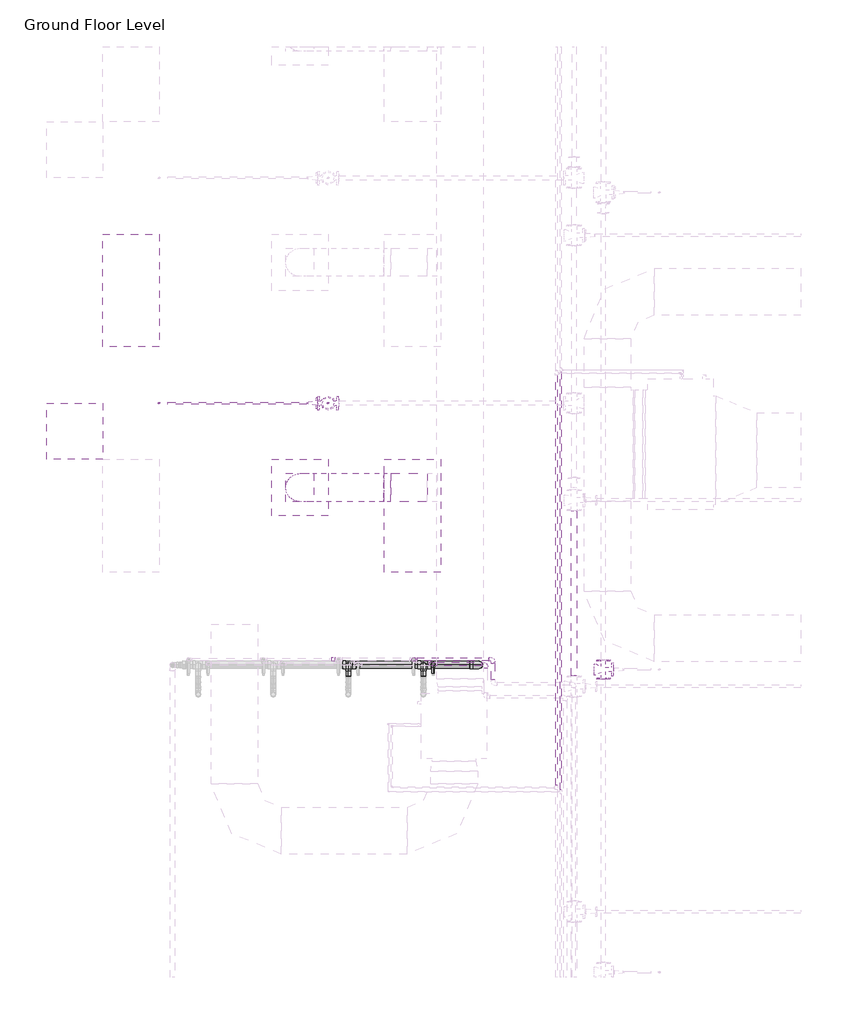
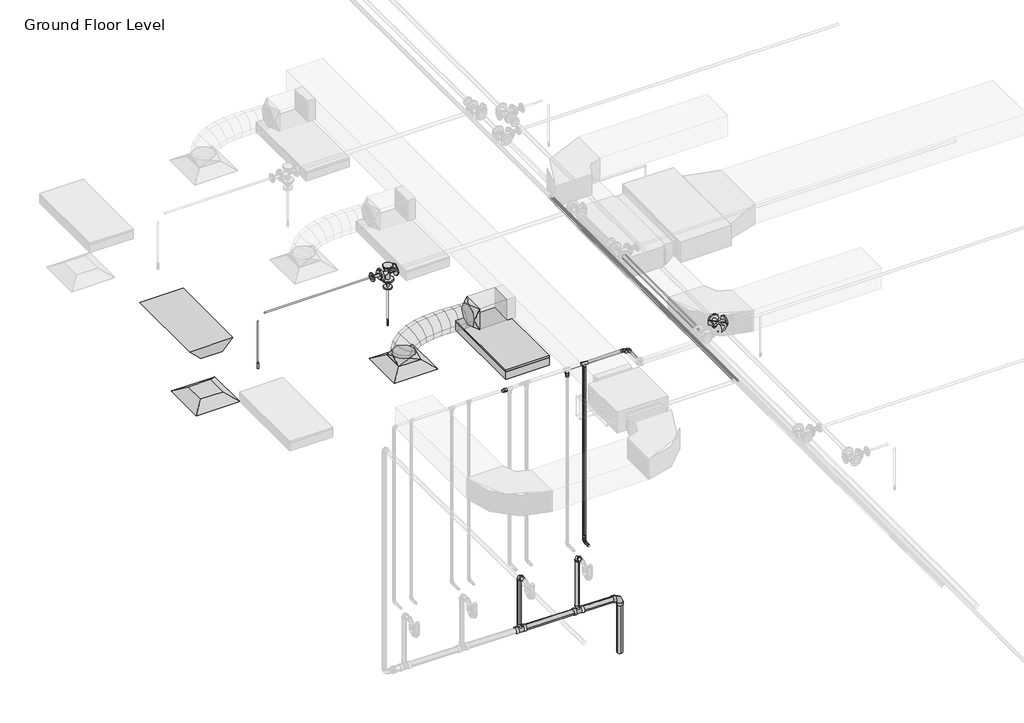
# One storey, part 25 of 75: 18 pipe segments, 16 pipe fittings, 2 air terminals, 2 duct fittings, 2 duct segments, 2 fire suppression terminals, 2 light fixtures.
"""IFC4 building model written with IfcOpenShell, lengths in millimetres."""

from ifc_helpers import new_model, si_unit, point, frame, frame_2d, origin, place, context, project, spatial, polyline, circle_curve, ellipse_curve, trimmed, segment, composite_curve, outline, extrude, transform, mapped, element, save
from ifc_brep_helpers import plane_surface, cylinder_surface, advanced_brep
from components import m_return_diffuser_600_x_600_face_300_x_300_connection_ff221211, m_rectangular_to_round_transition_angle_45_degree_641efff0, m_sprinkler_dry_pendent_hosted_15_mm_dry_pendent_9bda8e11, m_emergency_recessed_lighting_fixture_600x1200_277_5b10b25d, m_troffer_light_parabolic_rectangular1_0600x1200mm_4_lamp_86473d4a, m_bend_pvc_sch_40_dwv_standard_0eeb11e1, m_bend_pvc_sch_40_dwv_standard_1e7bdcc1, m_bend_pvc_sch_40_dwv_standard_b3f66ba9, m_reducer_flanged_cs_class_150_standard_dc68ad9d, m_tee_reducing_sanitary_pvc_sch_40_dwv_standard_21d2848c, m_tee_round_base_flanged_cs_class_150_standard_9c9133d0, m_tee_round_base_flanged_cs_class_150_standard_ab36f383, standard_b266ab3f, standard_517a5a8d, standard_72b35c3b, standard_e954f56a, standard_c7dcb452, standard_e5aa6446

model = new_model("IFC4")

# Units and contexts
model_context = context("Model", 3, world=origin())
ifc_project = project(units=[si_unit("LENGTHUNIT", "METRE", prefix="MILLI")], contexts=[model_context])

# Site, building, storey
site = spatial("IfcSite", under=ifc_project)
building = spatial("IfcBuilding", under=site)
storey = spatial("IfcBuildingStorey", under=building, Name="Ground Floor Level", Elevation=900.0)

# Air terminals
placement = place(None, origin())
m_return_diffuser_600_x_600_face_300_x_300_connection_shape = m_return_diffuser_600_x_600_face_300_x_300_connection_ff221211(model_context)
element("IfcAirTerminal", 1, ObjectType="M_Return Diffuser : 600 x 600 Face 300 x 300 Connection", at=placement, inside=storey, context=model_context, shape_type="MappedRepresentation", body=[
    mapped(m_return_diffuser_600_x_600_face_300_x_300_connection_shape, transform((362.7672395, -21364.7846466, 3650.0), x_axis=(1.0, 0.0, 0.0), y_axis=(0.0, 1.0, 0.0), z_axis=(0.0, 0.0, 1.0))),
])
element("IfcAirTerminal", 2, ObjectType="M_Supply Diffuser : 600 x 600 Face 300 x 300 Connection", at=placement, inside=storey, context=model_context, shape_type="MappedRepresentation", body=[
    mapped(m_return_diffuser_600_x_600_face_300_x_300_connection_shape, transform((2762.7672395, -21964.7846466, 3650.0), x_axis=(1.0, 0.0, 0.0), y_axis=(0.0, 1.0, 0.0), z_axis=(0.0, 0.0, 1.0))),
])

# Duct fittings
m_rectangular_to_round_transition_angle_45_degree_shape = m_rectangular_to_round_transition_angle_45_degree_641efff0(model_context)
element("IfcDuctFitting", 3, ObjectType="M_Rectangular to Round Transition - Angle : 45 Degree", at=placement, inside=storey, context=model_context, shape_type="MappedRepresentation", body=[
    mapped(m_rectangular_to_round_transition_angle_45_degree_shape, transform((2762.7672395, -21964.7846466, 3751.6), x_axis=(0.0, 0.0, 1.0), y_axis=(-1.0, 0.0, 0.0), z_axis=(0.0, -1.0, 0.0))),
])
element("IfcDuctFitting", 4, ObjectType="M_Rectangular to Round Transition - Angle : 45 Degree", at=placement, inside=storey, context=model_context, shape_type="MappedRepresentation", body=[
    mapped(m_rectangular_to_round_transition_angle_45_degree_shape, transform((3732.9512129, -21964.7846466, 4057.1519579), x_axis=(-1.0, 0.0, 0.0), y_axis=(0.0, -1.0, 0.0), z_axis=(0.0, 0.0, 1.0))),
])

# Duct segments
element("IfcDuctSegment", 5, ObjectType="Flex - Round", at=placement, inside=storey, context=model_context, shape_type="AdvancedBrep", body=[
    advanced_brep(
    [(2912.7672395, -21964.7846466, 3826.6), (2762.7672395, -22114.7846466, 3826.6), (2612.7672395, -21964.7846466, 3826.6), (2762.7672395, -21814.7846466, 3826.6), (2912.7672395, -21964.7846466, 3832.8904143), (2762.7672395, -22114.7846466, 3856.8494149), (2612.7672395, -21964.7846466, 3880.8084155), (2762.7672395, -21814.7846466, 3856.8494149), (2914.0859082, -21964.7846466, 3836.9129923), (2779.5128239, -22114.7846466, 3907.9315565), (2644.9397396, -21964.7846466, 3978.9501208), (2779.5128239, -21814.7846466, 3907.9315565), (2928.1338147, -21964.7846466, 3855.2244817), (2826.2856906, -22114.7846466, 3968.9001322), (2724.4375665, -21964.7846466, 4082.5757828), (2826.2856906, -21814.7846466, 3968.9001322), (2960.075367, -21964.7846466, 3874.5779986), (2897.8900097, -22114.7846466, 4012.2854816), (2835.7046525, -21964.7846466, 4149.9929645), (2897.8900097, -21814.7846466, 4012.2854816), (3023.3471395, -21964.7846466, 3894.3985509), (2989.1299517, -22114.7846466, 4040.8673589), (2954.9127638, -21964.7846466, 4187.3361668), (2989.1299517, -21814.7846466, 4040.8673589), (3111.2174774, -21964.7846466, 3908.1662907), (3094.8096865, -22114.7846466, 4057.4255186), (3078.4018957, -21964.7846466, 4206.6847465), (3094.8096865, -21814.7846466, 4057.4255186), (3215.0370803, -21964.7846466, 3914.773779), (3209.7333846, -22114.7846466, 4064.7397152), (3204.4296888, -21964.7846466, 4214.7056514), (3209.7333846, -21814.7846466, 4064.7397152), (3327.4369923, -21964.7846466, 3915.576814), (3328.705216, -22114.7846466, 4065.589703), (3329.9734397, -21964.7846466, 4215.6025919), (3328.705216, -21814.7846466, 4065.589703), (3442.2113611, -21964.7846466, 3912.815715), (3446.529351, -22114.7846466, 4062.7552364), (3450.847341, -21964.7846466, 4212.6947579), (3446.529351, -21814.7846466, 4062.7552364), (3554.0566752, -21964.7846466, 3909.0643159), (3558.0099599, -22114.7846466, 4059.0160699), (3561.9632447, -21964.7846466, 4208.9678239), (3558.0099599, -21814.7846466, 4059.0160699), (3657.9512129, -21964.7846466, 3907.1519579), (3657.9512129, -21814.7846466, 4057.1519579), (3657.9512129, -21964.7846466, 4207.1519579), (3657.9512129, -22114.7846466, 4057.1519579), (3653.7148319, -21964.7846466, 3907.1519579), (3655.1538878, -22114.7846466, 4057.1519579), (3656.5929436, -21964.7846466, 4207.1519579), (3655.1538878, -21814.7846466, 4057.1519579)],
    [
        (0, 1, circle_curve(frame((2762.7672395, -21964.7846466, 3826.6), z_axis=(0.0, 0.0, -1.0), x_axis=(1.0, 0.0, 0.0)), 150.0)),
        (1, 2, circle_curve(frame((2762.7672395, -21964.7846466, 3826.6), z_axis=(0.0, 0.0, -1.0), x_axis=(1.0, 0.0, 0.0)), 150.0)),
        (2, 3, circle_curve(frame((2762.7672395, -21964.7846466, 3826.6), z_axis=(0.0, 0.0, -1.0), x_axis=(1.0, 0.0, 0.0)), 150.0)),
        (3, 0, circle_curve(frame((2762.7672395, -21964.7846466, 3826.6), z_axis=(0.0, 0.0, -1.0), x_axis=(1.0, 0.0, 0.0)), 150.0)),
        (0, 4),
        (4, 5, ellipse_curve(frame((2762.7672395, -21964.7846466, 3856.8494149), z_axis=(-0.1577273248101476, 0.0, -0.9874827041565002), x_axis=(0.9874827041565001, 0.0, -0.1577273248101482)), 151.9013947, 150.0)),
        (5, 1),
        (5, 6, ellipse_curve(frame((2762.7672395, -21964.7846466, 3856.8494149), z_axis=(-0.1577273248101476, 0.0, -0.9874827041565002), x_axis=(0.9874827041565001, 0.0, -0.1577273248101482)), 151.9013947, 150.0)),
        (6, 2),
        (6, 7, ellipse_curve(frame((2762.7672395, -21964.7846466, 3856.8494149), z_axis=(-0.1577273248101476, 0.0, -0.9874827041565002), x_axis=(0.9874827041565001, 0.0, -0.1577273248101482)), 151.9013947, 150.0)),
        (7, 3),
        (7, 4, ellipse_curve(frame((2762.7672395, -21964.7846466, 3856.8494149), z_axis=(-0.1577273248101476, 0.0, -0.9874827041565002), x_axis=(0.9874827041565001, 0.0, -0.1577273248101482)), 151.9013947, 150.0)),
        (4, 8),
        (8, 9, ellipse_curve(frame((2779.5128239, -21964.7846466, 3907.9315565), z_axis=(-0.46672716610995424, 0.0, -0.8844013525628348), x_axis=(0.8844013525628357, 0.0, -0.466727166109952)), 152.162911, 150.0)),
        (9, 5),
        (9, 10, ellipse_curve(frame((2779.5128239, -21964.7846466, 3907.9315565), z_axis=(-0.46672716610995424, 0.0, -0.8844013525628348), x_axis=(0.8844013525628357, 0.0, -0.466727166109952)), 152.162911, 150.0)),
        (10, 6),
        (10, 11, ellipse_curve(frame((2779.5128239, -21964.7846466, 3907.9315565), z_axis=(-0.46672716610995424, 0.0, -0.8844013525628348), x_axis=(0.8844013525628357, 0.0, -0.466727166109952)), 152.162911, 150.0)),
        (11, 7),
        (11, 8, ellipse_curve(frame((2779.5128239, -21964.7846466, 3907.9315565), z_axis=(-0.46672716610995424, 0.0, -0.8844013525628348), x_axis=(0.8844013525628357, 0.0, -0.466727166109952)), 152.162911, 150.0)),
        (8, 12),
        (12, 13, ellipse_curve(frame((2826.2856906, -21964.7846466, 3968.9001322), z_axis=(-0.744790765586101, 0.0, -0.6672980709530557), x_axis=(0.6672980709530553, 0.0, -0.7447907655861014)), 152.6276316, 150.0)),
        (13, 9),
        (13, 14, ellipse_curve(frame((2826.2856906, -21964.7846466, 3968.9001322), z_axis=(-0.744790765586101, 0.0, -0.6672980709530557), x_axis=(0.6672980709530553, 0.0, -0.7447907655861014)), 152.6276316, 150.0)),
        (14, 10),
        (14, 15, ellipse_curve(frame((2826.2856906, -21964.7846466, 3968.9001322), z_axis=(-0.744790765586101, 0.0, -0.6672980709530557), x_axis=(0.6672980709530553, 0.0, -0.7447907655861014)), 152.6276316, 150.0)),
        (15, 11),
        (15, 12, ellipse_curve(frame((2826.2856906, -21964.7846466, 3968.9001322), z_axis=(-0.744790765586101, 0.0, -0.6672980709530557), x_axis=(0.6672980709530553, 0.0, -0.7447907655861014)), 152.6276316, 150.0)),
        (12, 16),
        (16, 17, ellipse_curve(frame((2897.8900097, -21964.7846466, 4012.2854816), z_axis=(-0.9113833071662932, 0.0, -0.41155858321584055), x_axis=(0.41155858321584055, 0.0, -0.9113833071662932)), 151.0972187, 150.0)),
        (17, 13),
        (17, 18, ellipse_curve(frame((2897.8900097, -21964.7846466, 4012.2854816), z_axis=(-0.9113833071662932, 0.0, -0.41155858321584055), x_axis=(0.41155858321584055, 0.0, -0.9113833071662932)), 151.0972187, 150.0)),
        (18, 14),
        (18, 19, ellipse_curve(frame((2897.8900097, -21964.7846466, 4012.2854816), z_axis=(-0.9113833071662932, 0.0, -0.41155858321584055), x_axis=(0.41155858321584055, 0.0, -0.9113833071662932)), 151.0972187, 150.0)),
        (19, 15),
        (19, 16, ellipse_curve(frame((2897.8900097, -21964.7846466, 4012.2854816), z_axis=(-0.9113833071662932, 0.0, -0.41155858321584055), x_axis=(0.41155858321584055, 0.0, -0.9113833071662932)), 151.0972187, 150.0)),
        (16, 20),
        (20, 21, ellipse_curve(frame((2989.1299517, -21964.7846466, 4040.8673589), z_axis=(-0.9737806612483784, 0.0, -0.22748895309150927), x_axis=(0.22748895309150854, 0.0, -0.9737806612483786)), 150.4125249, 150.0)),
        (21, 17),
        (21, 22, ellipse_curve(frame((2989.1299517, -21964.7846466, 4040.8673589), z_axis=(-0.9737806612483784, 0.0, -0.22748895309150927), x_axis=(0.22748895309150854, 0.0, -0.9737806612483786)), 150.4125249, 150.0)),
        (22, 18),
        (22, 23, ellipse_curve(frame((2989.1299517, -21964.7846466, 4040.8673589), z_axis=(-0.9737806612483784, 0.0, -0.22748895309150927), x_axis=(0.22748895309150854, 0.0, -0.9737806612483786)), 150.4125249, 150.0)),
        (23, 19),
        (23, 20, ellipse_curve(frame((2989.1299517, -21964.7846466, 4040.8673589), z_axis=(-0.9737806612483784, 0.0, -0.22748895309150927), x_axis=(0.22748895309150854, 0.0, -0.9737806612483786)), 150.4125249, 150.0)),
        (20, 24),
        (24, 25, ellipse_curve(frame((3094.8096865, -21964.7846466, 4057.4255186), z_axis=(-0.9940121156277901, 0.0, -0.109269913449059), x_axis=(0.10926991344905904, 0.0, -0.9940121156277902)), 150.1583588, 150.0)),
        (25, 21),
        (25, 26, ellipse_curve(frame((3094.8096865, -21964.7846466, 4057.4255186), z_axis=(-0.9940121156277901, 0.0, -0.109269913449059), x_axis=(0.10926991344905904, 0.0, -0.9940121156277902)), 150.1583588, 150.0)),
        (26, 22),
        (26, 27, ellipse_curve(frame((3094.8096865, -21964.7846466, 4057.4255186), z_axis=(-0.9940121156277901, 0.0, -0.109269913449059), x_axis=(0.10926991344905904, 0.0, -0.9940121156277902)), 150.1583588, 150.0)),
        (27, 23),
        (27, 24, ellipse_curve(frame((3094.8096865, -21964.7846466, 4057.4255186), z_axis=(-0.9940121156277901, 0.0, -0.109269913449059), x_axis=(0.10926991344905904, 0.0, -0.9940121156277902)), 150.1583588, 150.0)),
        (24, 28),
        (28, 29, ellipse_curve(frame((3209.7333846, -21964.7846466, 4064.7397152), z_axis=(-0.9993752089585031, 0.0, -0.035343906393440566), x_axis=(0.035343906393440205, 0.0, -0.9993752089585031)), 150.0596922, 150.0)),
        (29, 25),
        (29, 30, ellipse_curve(frame((3209.7333846, -21964.7846466, 4064.7397152), z_axis=(-0.9993752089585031, 0.0, -0.035343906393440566), x_axis=(0.035343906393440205, 0.0, -0.9993752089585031)), 150.0596922, 150.0)),
        (30, 26),
        (30, 31, ellipse_curve(frame((3209.7333846, -21964.7846466, 4064.7397152), z_axis=(-0.9993752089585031, 0.0, -0.035343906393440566), x_axis=(0.035343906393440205, 0.0, -0.9993752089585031)), 150.0596922, 150.0)),
        (31, 27),
        (31, 28, ellipse_curve(frame((3209.7333846, -21964.7846466, 4064.7397152), z_axis=(-0.9993752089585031, 0.0, -0.035343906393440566), x_axis=(0.035343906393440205, 0.0, -0.9993752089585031)), 150.0596922, 150.0)),
        (28, 32),
        (32, 33, ellipse_curve(frame((3328.705216, -21964.7846466, 4065.589703), z_axis=(-0.9999642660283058, 0.0, 0.008453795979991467), x_axis=(-0.00845379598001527, 0.0, -0.9999642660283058)), 150.0182497, 150.0)),
        (33, 29),
        (33, 34, ellipse_curve(frame((3328.705216, -21964.7846466, 4065.589703), z_axis=(-0.9999642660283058, 0.0, 0.008453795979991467), x_axis=(-0.00845379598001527, 0.0, -0.9999642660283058)), 150.0182497, 150.0)),
        (34, 30),
        (34, 35, ellipse_curve(frame((3328.705216, -21964.7846466, 4065.589703), z_axis=(-0.9999642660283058, 0.0, 0.008453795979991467), x_axis=(-0.00845379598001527, 0.0, -0.9999642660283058)), 150.0182497, 150.0)),
        (35, 31),
        (35, 32, ellipse_curve(frame((3328.705216, -21964.7846466, 4065.589703), z_axis=(-0.9999642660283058, 0.0, 0.008453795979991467), x_axis=(-0.00845379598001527, 0.0, -0.9999642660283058)), 150.0182497, 150.0)),
        (32, 36),
        (36, 37, ellipse_curve(frame((3446.529351, -21964.7846466, 4062.7552364), z_axis=(-0.9995855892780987, 0.0, 0.028786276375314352), x_axis=(-0.028786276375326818, 0.0, -0.9995855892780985)), 150.0016838, 150.0)),
        (37, 33),
        (37, 38, ellipse_curve(frame((3446.529351, -21964.7846466, 4062.7552364), z_axis=(-0.9995855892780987, 0.0, 0.028786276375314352), x_axis=(-0.028786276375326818, 0.0, -0.9995855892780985)), 150.0016838, 150.0)),
        (38, 34),
        (38, 39, ellipse_curve(frame((3446.529351, -21964.7846466, 4062.7552364), z_axis=(-0.9995855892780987, 0.0, 0.028786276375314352), x_axis=(-0.028786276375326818, 0.0, -0.9995855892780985)), 150.0016838, 150.0)),
        (39, 35),
        (39, 36, ellipse_curve(frame((3446.529351, -21964.7846466, 4062.7552364), z_axis=(-0.9995855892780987, 0.0, 0.028786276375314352), x_axis=(-0.028786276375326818, 0.0, -0.9995855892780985)), 150.0016838, 150.0)),
        (36, 40),
        (40, 41, ellipse_curve(frame((3558.0099599, -21964.7846466, 4059.0160699), z_axis=(-0.999652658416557, 0.0, 0.026354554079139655), x_axis=(0.026354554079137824, 0.0, 0.9996526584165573)), 150.0038566, 150.0)),
        (41, 37),
        (41, 42, ellipse_curve(frame((3558.0099599, -21964.7846466, 4059.0160699), z_axis=(-0.999652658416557, 0.0, 0.026354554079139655), x_axis=(0.026354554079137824, 0.0, 0.9996526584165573)), 150.0038566, 150.0)),
        (42, 38),
        (42, 43, ellipse_curve(frame((3558.0099599, -21964.7846466, 4059.0160699), z_axis=(-0.999652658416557, 0.0, 0.026354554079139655), x_axis=(0.026354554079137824, 0.0, 0.9996526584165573)), 150.0038566, 150.0)),
        (43, 39),
        (43, 40, ellipse_curve(frame((3558.0099599, -21964.7846466, 4059.0160699), z_axis=(-0.999652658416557, 0.0, 0.026354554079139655), x_axis=(0.026354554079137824, 0.0, 0.9996526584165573)), 150.0038566, 150.0)),
        (44, 45, circle_curve(frame((3657.9512129, -21964.7846466, 4057.1519579), z_axis=(1.0, 0.0, 0.0), x_axis=(0.0, 0.0, -1.0)), 150.0)),
        (45, 46, circle_curve(frame((3657.9512129, -21964.7846466, 4057.1519579), z_axis=(1.0, 0.0, 0.0), x_axis=(0.0, 0.0, -1.0)), 150.0)),
        (46, 47, circle_curve(frame((3657.9512129, -21964.7846466, 4057.1519579), z_axis=(1.0, 0.0, 0.0), x_axis=(0.0, 0.0, -1.0)), 150.0)),
        (47, 44, circle_curve(frame((3657.9512129, -21964.7846466, 4057.1519579), z_axis=(1.0, 0.0, 0.0), x_axis=(0.0, 0.0, -1.0)), 150.0)),
        (40, 48),
        (48, 49, ellipse_curve(frame((3655.1538878, -21964.7846466, 4057.1519579), z_axis=(-0.9999539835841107, 0.0, 0.009593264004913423), x_axis=(0.009593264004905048, 0.0, 0.9999539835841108)), 150.0069028, 150.0)),
        (49, 41),
        (49, 50, ellipse_curve(frame((3655.1538878, -21964.7846466, 4057.1519579), z_axis=(-0.9999539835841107, 0.0, 0.009593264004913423), x_axis=(0.009593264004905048, 0.0, 0.9999539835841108)), 150.0069028, 150.0)),
        (50, 42),
        (50, 51, ellipse_curve(frame((3655.1538878, -21964.7846466, 4057.1519579), z_axis=(-0.9999539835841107, 0.0, 0.009593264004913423), x_axis=(0.009593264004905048, 0.0, 0.9999539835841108)), 150.0069028, 150.0)),
        (51, 43),
        (51, 48, ellipse_curve(frame((3655.1538878, -21964.7846466, 4057.1519579), z_axis=(-0.9999539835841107, 0.0, 0.009593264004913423), x_axis=(0.009593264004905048, 0.0, 0.9999539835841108)), 150.0069028, 150.0)),
        (48, 44),
        (47, 49),
        (46, 50),
        (45, 51),
    ],
    [
        plane_surface(frame((2762.7672395, -22114.7846466, 3826.6), z_axis=(0.0, 0.0, -1.0), x_axis=(1.0, 0.0, 0.0))),
        cylinder_surface(frame((2762.7672395, -21964.7846466, 3826.6), z_axis=(0.0, 0.0, -1.0), x_axis=(1.0, 0.0, 0.0)), 150.0),
        cylinder_surface(frame((2762.7672395, -21964.7846466, 3856.8494149), z_axis=(-0.3115060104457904, 0.0, -0.9502441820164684), x_axis=(0.9502441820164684, 0.0, -0.3115060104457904)), 150.0),
        cylinder_surface(frame((2779.5128239, -21964.7846466, 3907.9315565), z_axis=(-0.6086797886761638, 0.0, -0.7934159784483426), x_axis=(0.7934159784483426, 0.0, -0.6086797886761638)), 150.0),
        cylinder_surface(frame((2826.2856906, -21964.7846466, 3968.9001322), z_axis=(-0.8552571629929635, 0.0, -0.5182038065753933), x_axis=(0.5182038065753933, 0.0, -0.8552571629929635)), 150.0),
        cylinder_surface(frame((2897.8900097, -21964.7846466, 4012.2854816), z_axis=(-0.9542731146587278, 0.0, -0.29893615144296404), x_axis=(0.29893615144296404, 0.0, -0.9542731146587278)), 150.0),
        cylinder_surface(frame((2989.1299517, -21964.7846466, 4040.8673589), z_axis=(-0.9879467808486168, 0.0, -0.15479392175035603), x_axis=(0.15479392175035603, 0.0, -0.9879467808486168)), 150.0),
        cylinder_surface(frame((3094.8096865, -21964.7846466, 4057.4255186), z_axis=(-0.997980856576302, 0.0, -0.06351543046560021), x_axis=(0.06351543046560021, 0.0, -0.997980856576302)), 150.0),
        cylinder_surface(frame((3209.7333846, -21964.7846466, 4064.7397152), z_axis=(-0.9999744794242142, 0.0, -0.007144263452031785), x_axis=(0.007144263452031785, 0.0, -0.9999744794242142)), 150.0),
        cylinder_surface(frame((3328.705216, -21964.7846466, 4065.589703), z_axis=(-0.9997107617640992, 0.0, 0.024049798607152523), x_axis=(-0.024049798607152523, 0.0, -0.9997107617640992)), 150.0),
        cylinder_surface(frame((3446.529351, -21964.7846466, 4062.7552364), z_axis=(-0.9994379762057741, 0.0, 0.03352210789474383), x_axis=(-0.03352210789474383, 0.0, -0.9994379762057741)), 150.0),
        plane_surface(frame((3657.9512129, -21964.7846466, 3907.1519579), z_axis=(1.0, 0.0, 0.0), x_axis=(0.0, 1.0, 0.0))),
        cylinder_surface(frame((3558.0099599, -21964.7846466, 4059.0160699), z_axis=(-0.9998159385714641, 0.0, 0.01918564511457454), x_axis=(-0.01918564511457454, 0.0, -0.9998159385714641)), 150.0),
        cylinder_surface(frame((3655.1538878, -21964.7846466, 4057.1519579), z_axis=(-1.0, 0.0, 0.0), x_axis=(0.0, 0.0, -1.0)), 150.0),
    ],
    [
        (0, [[1, 2, 3, 4]]),
        (1, [[-1, 5, 6, 7]]),
        (1, [[-2, -7, 8, 9]]),
        (1, [[-3, -9, 10, 11]]),
        (1, [[-4, -11, 12, -5]]),
        (2, [[-6, 13, 14, 15]]),
        (2, [[-8, -15, 16, 17]]),
        (2, [[-10, -17, 18, 19]]),
        (2, [[-12, -19, 20, -13]]),
        (3, [[-14, 21, 22, 23]]),
        (3, [[-16, -23, 24, 25]]),
        (3, [[-18, -25, 26, 27]]),
        (3, [[-20, -27, 28, -21]]),
        (4, [[-22, 29, 30, 31]]),
        (4, [[-24, -31, 32, 33]]),
        (4, [[-26, -33, 34, 35]]),
        (4, [[-28, -35, 36, -29]]),
        (5, [[-30, 37, 38, 39]]),
        (5, [[-32, -39, 40, 41]]),
        (5, [[-34, -41, 42, 43]]),
        (5, [[-36, -43, 44, -37]]),
        (6, [[-38, 45, 46, 47]]),
        (6, [[-40, -47, 48, 49]]),
        (6, [[-42, -49, 50, 51]]),
        (6, [[-44, -51, 52, -45]]),
        (7, [[-46, 53, 54, 55]]),
        (7, [[-48, -55, 56, 57]]),
        (7, [[-50, -57, 58, 59]]),
        (7, [[-52, -59, 60, -53]]),
        (8, [[-54, 61, 62, 63]]),
        (8, [[-56, -63, 64, 65]]),
        (8, [[-58, -65, 66, 67]]),
        (8, [[-60, -67, 68, -61]]),
        (9, [[-62, 69, 70, 71]]),
        (9, [[-64, -71, 72, 73]]),
        (9, [[-66, -73, 74, 75]]),
        (9, [[-68, -75, 76, -69]]),
        (10, [[-70, 77, 78, 79]]),
        (10, [[-72, -79, 80, 81]]),
        (10, [[-74, -81, 82, 83]]),
        (10, [[-76, -83, 84, -77]]),
        (11, [[85, 86, 87, 88]]),
        (12, [[-78, 89, 90, 91]]),
        (12, [[-80, -91, 92, 93]]),
        (12, [[-82, -93, 94, 95]]),
        (12, [[-84, -95, 96, -89]]),
        (13, [[-90, 97, -88, 98]]),
        (13, [[-92, -98, -87, 99]]),
        (13, [[-94, -99, -86, 100]]),
        (13, [[-96, -100, -85, -97]]),
    ],
),
])
element("IfcDuctSegment", 6, ObjectType="Radius Elbows / Taps", at=placement, inside=storey, context=model_context, shape_type="SweptSolid", body=[
    extrude(outline(polyline([(4117.5581832, -21814.7846466), (4117.5581832, -22114.7846466), (3732.9512129, -22114.7846466), (3732.9512129, -21814.7846466), (4117.5581832, -21814.7846466)])), frame((0.0, 0.0, 3907.1519579), z_axis=(0.0, 0.0, 1.0), x_axis=(1.0, 0.0, 0.0)), (0.0, 0.0, 1.0), 300.0),
])

# Fire suppression terminals
m_sprinkler_dry_pendent_hosted_15_mm_dry_pendent_shape = m_sprinkler_dry_pendent_hosted_15_mm_dry_pendent_9bda8e11(model_context)
element("IfcFireSuppressionTerminal", 7, ObjectType="M_Sprinkler - Dry - Pendent - Hosted : 15 mm Dry Pendent", at=placement, inside=storey, context=model_context, shape_type="MappedRepresentation", body=[
    mapped(m_sprinkler_dry_pendent_hosted_15_mm_dry_pendent_shape, transform((1262.7672395, -21064.7846466, 3650.0), x_axis=(1.0, 0.0, 0.0), y_axis=(0.0, -1.0, 0.0), z_axis=(0.0, 0.0, -1.0))),
])
element("IfcFireSuppressionTerminal", 8, ObjectType="M_Sprinkler - Dry - Pendent - Hosted : 15 mm Dry Pendent", at=placement, inside=storey, context=model_context, shape_type="MappedRepresentation", body=[
    mapped(m_sprinkler_dry_pendent_hosted_15_mm_dry_pendent_shape, transform((3062.7672395, -21064.7846466, 3650.0), x_axis=(1.0, 0.0, 0.0), y_axis=(0.0, -1.0, 0.0), z_axis=(0.0, 0.0, -1.0))),
])

# Light fixtures
m_emergency_recessed_lighting_fixture_600x1200_277_shape = m_emergency_recessed_lighting_fixture_600x1200_277_5b10b25d(model_context)
element("IfcLightFixture", 9, ObjectType="M_Emergency Recessed Lighting Fixture : 600x1200 - 277", at=placement, inside=storey, context=model_context, shape_type="MappedRepresentation", body=[
    mapped(m_emergency_recessed_lighting_fixture_600x1200_277_shape, transform((662.7672395, -20464.7846466, 3650.0), x_axis=(0.0, 1.0, 0.0), y_axis=(-1.0, 0.0, 0.0), z_axis=(0.0, 0.0, 1.0))),
])
m_troffer_light_parabolic_rectangular1_0600x1200mm_4_lamp_shape = m_troffer_light_parabolic_rectangular1_0600x1200mm_4_lamp_86473d4a(model_context)
element("IfcLightFixture", 10, ObjectType="M_Troffer Light - Parabolic Rectangular1 : 0600x1200mm(4 Lamp) - 277V 2", at=placement, inside=storey, context=model_context, shape_type="MappedRepresentation", body=[
    mapped(m_troffer_light_parabolic_rectangular1_0600x1200mm_4_lamp_shape, transform((3903.3013074, -22246.081145, 3650.0), x_axis=(0.0, 1.0, 0.0), y_axis=(-1.0, 0.0, 0.0), z_axis=(0.0, 0.0, 1.0))),
])

# Pipe fittings
m_bend_pvc_sch_40_dwv_standard_shape = m_bend_pvc_sch_40_dwv_standard_0eeb11e1(model_context)
element("IfcPipeFitting", 11, ObjectType="M_Bend - PVC - Sch 40 - DWV : Standard", at=placement, inside=storey, context=model_context, shape_type="MappedRepresentation", body=[
    mapped(m_bend_pvc_sch_40_dwv_standard_shape, transform((4671.3267974, -23854.2948449, 706.9937306), x_axis=(0.9999500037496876, 0.0, -0.009999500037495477), y_axis=(-0.009999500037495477, 0.0, -0.9999500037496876), z_axis=(0.0, 1.0, 0.0))),
])
m_bend_pvc_sch_40_dwv_standard_2_shape = m_bend_pvc_sch_40_dwv_standard_1e7bdcc1(model_context)
element("IfcPipeFitting", 12, ObjectType="M_Bend - PVC - Sch 40 - DWV : Standard", at=placement, inside=storey, context=model_context, shape_type="MappedRepresentation", body=[
    mapped(m_bend_pvc_sch_40_dwv_standard_2_shape, transform((4078.7498, -23854.2948449, 1508.2594199), x_axis=(0.0, 0.9999500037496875, -0.00999950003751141), y_axis=(0.0, -0.00999950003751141, -0.9999500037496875), z_axis=(-1.0, 0.0, 0.0))),
])
m_bend_pvc_sch_40_dwv_standard_3_shape = m_bend_pvc_sch_40_dwv_standard_b3f66ba9(model_context)
element("IfcPipeFitting", 13, ObjectType="M_Bend - PVC - Sch 40 - DWV : Standard", at=placement, inside=storey, context=model_context, shape_type="MappedRepresentation", body=[
    mapped(m_bend_pvc_sch_40_dwv_standard_3_shape, transform((3278.7498, -23854.294392, 1508.3087469), x_axis=(0.0, 0.9999578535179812, -0.009181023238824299), y_axis=(0.0, -0.009181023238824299, -0.9999578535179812), z_axis=(-1.0, 0.0, 0.0))),
])
m_reducer_flanged_cs_class_150_standard_shape = m_reducer_flanged_cs_class_150_standard_dc68ad9d(model_context)
element("IfcPipeFitting", 14, ObjectType="M_Reducer - Flanged - CS - Class 150 : Standard", at=placement, inside=storey, context=model_context, shape_type="MappedRepresentation", body=[
    mapped(m_reducer_flanged_cs_class_150_standard_shape, transform((2950.5086457, -21064.7846466, 4347.5), x_axis=(-1.0, 0.0, 0.0), y_axis=(0.0, 0.0, 1.0), z_axis=(0.0, 1.0, 0.0))),
])
element("IfcPipeFitting", 15, ObjectType="M_Reducer - Flanged - CS - Class 150 : Standard", at=placement, inside=storey, context=model_context, shape_type="MappedRepresentation", body=[
    mapped(m_reducer_flanged_cs_class_150_standard_shape, transform((3062.7672395, -21064.7846466, 4235.2414062), x_axis=(0.0, 0.0, -1.0), y_axis=(-1.0, 0.0, 0.0), z_axis=(0.0, 1.0, 0.0))),
])
m_tee_reducing_sanitary_pvc_sch_40_dwv_standard_shape = m_tee_reducing_sanitary_pvc_sch_40_dwv_standard_21d2848c(model_context)
element("IfcPipeFitting", 16, ObjectType="M_Tee Reducing Sanitary - PVC - Sch 40 - DWV : Standard", at=placement, inside=storey, context=model_context, shape_type="MappedRepresentation", body=[
    mapped(m_tee_reducing_sanitary_pvc_sch_40_dwv_standard_shape, transform((3278.7498, -23854.294392, 721.0632162), x_axis=(-0.9999500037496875, 0.0, 0.009999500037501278), y_axis=(-0.009999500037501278, 0.0, -0.9999500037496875), z_axis=(0.0, -1.0, 0.0))),
])
element("IfcPipeFitting", 17, ObjectType="M_Tee Reducing Sanitary - PVC - Sch 40 - DWV : Standard", at=placement, inside=storey, context=model_context, shape_type="MappedRepresentation", body=[
    mapped(m_tee_reducing_sanitary_pvc_sch_40_dwv_standard_shape, transform((4078.7498, -23854.2948449, 713.0632162), x_axis=(-0.9999500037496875, 0.0, 0.00999950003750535), y_axis=(-0.00999950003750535, 0.0, -0.9999500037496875), z_axis=(0.0, -1.0, 0.0))),
])
m_tee_round_base_flanged_cs_class_150_standard_shape = m_tee_round_base_flanged_cs_class_150_standard_9c9133d0(model_context)
element("IfcPipeFitting", 18, ObjectType="M_Tee Round Base - Flanged - CS - Class 150 : Standard", at=placement, inside=storey, context=model_context, shape_type="MappedRepresentation", body=[
    mapped(m_tee_round_base_flanged_cs_class_150_standard_shape, transform((5997.057812, -23903.6779349, 4291.0943441), x_axis=(0.0, 1.0, 0.0), y_axis=(-1.0, 0.0, 0.0), z_axis=(0.0, 0.0, 1.0))),
])
m_tee_round_base_flanged_cs_class_150_standard_2_shape = m_tee_round_base_flanged_cs_class_150_standard_ab36f383(model_context)
element("IfcPipeFitting", 19, ObjectType="M_Tee Round Base - Flanged - CS - Class 150 : Standard", at=placement, inside=storey, context=model_context, shape_type="MappedRepresentation", body=[
    mapped(m_tee_round_base_flanged_cs_class_150_standard_2_shape, transform((3062.7672395, -21064.7846466, 4347.5), x_axis=(-1.0, 0.0, 0.0), y_axis=(0.0, 0.0, 1.0), z_axis=(0.0, 1.0, 0.0))),
])
standard_shape = standard_b266ab3f(model_context)
element("IfcPipeFitting", 20, ObjectType="M_Elbow - CPVC - Sch 40 : Standard", at=placement, inside=storey, context=model_context, shape_type="MappedRepresentation", body=[
    mapped(standard_shape, transform((4183.0647206, -23844.7846466, 1690.0), x_axis=(0.0, 1.0, 0.0), y_axis=(0.0, 0.0, 1.0), z_axis=(1.0, 0.0, 0.0))),
])
standard_2_shape = standard_517a5a8d(model_context)
element("IfcPipeFitting", 21, ObjectType="M_Elbow - CPVC - Sch 40 : Standard", at=placement, inside=storey, context=model_context, shape_type="MappedRepresentation", body=[
    mapped(standard_2_shape, transform((4743.0647206, -23844.7846466, 4300.0), x_axis=(0.0, 1.0, 0.0), y_axis=(-1.0, 0.0, 0.0), z_axis=(0.0, 0.0, 1.0))),
])
element("IfcPipeFitting", 22, ObjectType="M_Elbow - CPVC - Sch 40 : Standard", at=placement, inside=storey, context=model_context, shape_type="MappedRepresentation", body=[
    mapped(standard_2_shape, transform((4820.5575802, -23794.921633, 4250.0), x_axis=(0.0, 1.0, 0.0), y_axis=(-1.0, 0.0, 0.0), z_axis=(0.0, 0.0, 1.0))),
])
standard_3_shape = standard_72b35c3b(model_context)
element("IfcPipeFitting", 23, ObjectType="M_Tee - CPVC - Sch 40 : Standard", at=placement, inside=storey, context=model_context, shape_type="MappedRepresentation", body=[
    mapped(standard_3_shape, transform((4183.0647206, -23844.7846466, 4300.0), x_axis=(-1.0, 0.0, 0.0), y_axis=(0.0, 0.0, 1.0), z_axis=(0.0, 1.0, 0.0))),
])
standard_4_shape = standard_e954f56a(model_context)
element("IfcPipeFitting", 24, ObjectType="M_Coupling Reducing - CPVC - Sch 40 : Standard", at=placement, inside=storey, context=model_context, shape_type="MappedRepresentation", body=[
    mapped(standard_4_shape, transform((3974.4348794, -23794.921633, 4210.2998), x_axis=(0.0, 0.0, -1.0), y_axis=(-1.0, 0.0, 0.0), z_axis=(0.0, 1.0, 0.0))),
])
standard_5_shape = standard_c7dcb452(model_context)
element("IfcPipeFitting", 25, ObjectType="M_Coupling Reducing - CPVC - Sch 40 : Standard", at=placement, inside=storey, context=model_context, shape_type="MappedRepresentation", body=[
    mapped(standard_5_shape, transform((4183.0647206, -23844.7846466, 1725.32505), x_axis=(0.0, 0.0, 1.0), y_axis=(0.0, 1.0, 0.0), z_axis=(-1.0, 0.0, 0.0))),
])
standard_6_shape = standard_e5aa6446(model_context)
element("IfcPipeFitting", 26, ObjectType="M_Coupling Reducing - CPVC - Sch 40 : Standard", at=placement, inside=storey, context=model_context, shape_type="MappedRepresentation", body=[
    mapped(standard_6_shape, transform((3134.7346794, -23794.921633, 4250.0), x_axis=(-1.0, 0.0, 0.0), y_axis=(0.0, -1.0, 0.0), z_axis=(0.0, 0.0, 1.0))),
])

# Pipe segments
element("IfcPipeSegment", 27, ObjectType="CPVC", at=placement, inside=storey, context=model_context, shape_type="SweptSolid", body=[
    extrude(outline(composite_curve([segment(trimmed(circle_curve(frame_2d((1690.0, 4183.0647206)), 13.335), [point((1690.0, 4196.3997206))], [point((1703.335, 4183.0647206))], False, "CARTESIAN"), True, "CONTINUOUS"), segment(trimmed(circle_curve(frame_2d((1690.0, 4183.0647206)), 13.335), [point((1703.335, 4183.0647206))], [point((1690.0, 4169.7297206))], False, "CARTESIAN"), True, "CONTINUOUS"), segment(trimmed(circle_curve(frame_2d((1690.0, 4183.0647206)), 13.335), [point((1690.0, 4169.7297206))], [point((1676.665, 4183.0647206))], False, "CARTESIAN"), True, "CONTINUOUS"), segment(trimmed(circle_curve(frame_2d((1690.0, 4183.0647206)), 13.335), [point((1676.665, 4183.0647206))], [point((1690.0, 4196.3997206))], False, "CARTESIAN"), True, "CONTINUOUS")], self_intersect=False)), frame((0.0, -23944.7846466, 0.0), z_axis=(0.0, 1.0, 0.0), x_axis=(0.0, 0.0, 1.0)), (0.0, 0.0, 1.0), 64.67495),
])
element("IfcPipeSegment", 28, ObjectType="CPVC", at=placement, inside=storey, context=model_context, shape_type="SweptSolid", body=[
    extrude(outline(composite_curve([segment(trimmed(circle_curve(frame_2d((-23844.7846466, 4300.0)), 16.7005), [point((-23861.4851466, 4300.0))], [point((-23844.7846466, 4316.7005))], False, "CARTESIAN"), True, "CONTINUOUS"), segment(trimmed(circle_curve(frame_2d((-23844.7846466, 4300.0)), 16.7005), [point((-23844.7846466, 4316.7005))], [point((-23828.0841466, 4300.0))], False, "CARTESIAN"), True, "CONTINUOUS"), segment(trimmed(circle_curve(frame_2d((-23844.7846466, 4300.0)), 16.7005), [point((-23828.0841466, 4300.0))], [point((-23844.7846466, 4283.2995))], False, "CARTESIAN"), True, "CONTINUOUS"), segment(trimmed(circle_curve(frame_2d((-23844.7846466, 4300.0)), 16.7005), [point((-23844.7846466, 4283.2995))], [point((-23861.4851466, 4300.0))], False, "CARTESIAN"), True, "CONTINUOUS")], self_intersect=False)), frame((4222.7649206, 0.0, 0.0), z_axis=(1.0, 0.0, 0.0), x_axis=(0.0, 1.0, 0.0)), (0.0, 0.0, 1.0), 477.03725),
])
element("IfcPipeSegment", 29, ObjectType="CPVC", at=placement, inside=storey, context=model_context, shape_type="SweptSolid", body=[
    extrude(outline(composite_curve([segment(trimmed(circle_curve(frame_2d((4183.0647206, -23844.7846466)), 16.7005), [point((4166.3642206, -23844.7846466))], [point((4183.0647206, -23828.0841466))], False, "CARTESIAN"), True, "CONTINUOUS"), segment(trimmed(circle_curve(frame_2d((4183.0647206, -23844.7846466)), 16.7005), [point((4183.0647206, -23828.0841466))], [point((4199.7652206, -23844.7846466))], False, "CARTESIAN"), True, "CONTINUOUS"), segment(trimmed(circle_curve(frame_2d((4183.0647206, -23844.7846466)), 16.7005), [point((4199.7652206, -23844.7846466))], [point((4183.0647206, -23861.4851466))], False, "CARTESIAN"), True, "CONTINUOUS"), segment(trimmed(circle_curve(frame_2d((4183.0647206, -23844.7846466)), 16.7005), [point((4183.0647206, -23861.4851466))], [point((4166.3642206, -23844.7846466))], False, "CARTESIAN"), True, "CONTINUOUS")], self_intersect=False)), frame((0.0, 0.0, 1782.47505), z_axis=(0.0, 0.0, 1.0), x_axis=(1.0, 0.0, 0.0)), (0.0, 0.0, 1.0), 2477.82475),
])
element("IfcPipeSegment", 30, ObjectType="CPVC", at=placement, inside=storey, context=model_context, shape_type="SweptSolid", body=[
    extrude(outline(composite_curve([segment(trimmed(circle_curve(frame_2d((4250.0, 4820.5575802)), 16.7005), [point((4250.0, 4837.2580802))], [point((4266.7005, 4820.5575802))], False, "CARTESIAN"), True, "CONTINUOUS"), segment(trimmed(circle_curve(frame_2d((4250.0, 4820.5575802)), 16.7005), [point((4266.7005, 4820.5575802))], [point((4250.0, 4803.8570802))], False, "CARTESIAN"), True, "CONTINUOUS"), segment(trimmed(circle_curve(frame_2d((4250.0, 4820.5575802)), 16.7005), [point((4250.0, 4803.8570802))], [point((4233.2995, 4820.5575802))], False, "CARTESIAN"), True, "CONTINUOUS"), segment(trimmed(circle_curve(frame_2d((4250.0, 4820.5575802)), 16.7005), [point((4233.2995, 4820.5575802))], [point((4250.0, 4837.2580802))], False, "CARTESIAN"), True, "CONTINUOUS")], self_intersect=False)), frame((0.0, -24011.659083, 0.0), z_axis=(0.0, 1.0, 0.0), x_axis=(0.0, 0.0, 1.0)), (0.0, 0.0, 1.0), 173.4749),
])
element("IfcPipeSegment", 31, ObjectType="CPVC", at=placement, inside=storey, context=model_context, shape_type="SweptSolid", body=[
    extrude(outline(composite_curve([segment(trimmed(circle_curve(frame_2d((-23794.921633, 4250.0)), 16.7005), [point((-23811.622133, 4250.0))], [point((-23794.921633, 4266.7005))], False, "CARTESIAN"), True, "CONTINUOUS"), segment(trimmed(circle_curve(frame_2d((-23794.921633, 4250.0)), 16.7005), [point((-23794.921633, 4266.7005))], [point((-23778.221133, 4250.0))], False, "CARTESIAN"), True, "CONTINUOUS"), segment(trimmed(circle_curve(frame_2d((-23794.921633, 4250.0)), 16.7005), [point((-23778.221133, 4250.0))], [point((-23794.921633, 4233.2995))], False, "CARTESIAN"), True, "CONTINUOUS"), segment(trimmed(circle_curve(frame_2d((-23794.921633, 4250.0)), 16.7005), [point((-23794.921633, 4233.2995))], [point((-23811.622133, 4250.0))], False, "CARTESIAN"), True, "CONTINUOUS")], self_intersect=False)), frame((4014.1350794, 0.0, 0.0), z_axis=(1.0, 0.0, 0.0), x_axis=(0.0, 1.0, 0.0)), (0.0, 0.0, 1.0), 763.1599508),
])
element("IfcPipeSegment", 32, ObjectType="Copper", at=placement, inside=storey, context=model_context, shape_type="SweptSolid", body=[
    extrude(outline(composite_curve([segment(trimmed(circle_curve(frame_2d((4377.5, 5543.9904113)), 6.5), [point((4377.5, 5550.4904113))], [point((4384.0, 5543.9904113))], False, "CARTESIAN"), True, "CONTINUOUS"), segment(trimmed(circle_curve(frame_2d((4377.5, 5543.9904113)), 6.5), [point((4384.0, 5543.9904113))], [point((4377.5, 5537.4904113))], False, "CARTESIAN"), True, "CONTINUOUS"), segment(trimmed(circle_curve(frame_2d((4377.5, 5543.9904113)), 6.5), [point((4377.5, 5537.4904113))], [point((4371.0, 5543.9904113))], False, "CARTESIAN"), True, "CONTINUOUS"), segment(trimmed(circle_curve(frame_2d((4377.5, 5543.9904113)), 6.5), [point((4371.0, 5543.9904113))], [point((4377.5, 5550.4904113))], False, "CARTESIAN"), True, "CONTINUOUS")], self_intersect=False)), frame((0.0, -25185.8524508, 0.0), z_axis=(0.0, 1.0, 0.0), x_axis=(0.0, 0.0, 1.0)), (0.0, 0.0, 1.0), 4453.3686516),
])
element("IfcPipeSegment", 33, ObjectType="Copper", at=placement, inside=storey, context=model_context, shape_type="SweptSolid", body=[
    extrude(outline(composite_curve([segment(trimmed(circle_curve(frame_2d((4390.0, 5497.8951827)), 9.75), [point((4390.0, 5507.6451827))], [point((4399.75, 5497.8951827))], False, "CARTESIAN"), True, "CONTINUOUS"), segment(trimmed(circle_curve(frame_2d((4390.0, 5497.8951827)), 9.75), [point((4399.75, 5497.8951827))], [point((4390.0, 5488.1451827))], False, "CARTESIAN"), True, "CONTINUOUS"), segment(trimmed(circle_curve(frame_2d((4390.0, 5497.8951827)), 9.75), [point((4390.0, 5488.1451827))], [point((4380.25, 5497.8951827))], False, "CARTESIAN"), True, "CONTINUOUS"), segment(trimmed(circle_curve(frame_2d((4390.0, 5497.8951827)), 9.75), [point((4380.25, 5497.8951827))], [point((4390.0, 5507.6451827))], False, "CARTESIAN"), True, "CONTINUOUS")], self_intersect=False)), frame((0.0, -25138.2771488, 0.0), z_axis=(0.0, 1.0, 0.0), x_axis=(0.0, 0.0, 1.0)), (0.0, 0.0, 1.0), 4369.0669095),
])
element("IfcPipeSegment", 34, ObjectType="PVC - DWV", at=placement, inside=storey, context=model_context, shape_type="SweptSolid", body=[
    extrude(outline(composite_curve([segment(trimmed(circle_curve(frame_2d((0.0, -36.5125)), 36.5125), [point((0.0, -73.025))], [point((-36.5125001, -36.5125))], False, "CARTESIAN"), True, "CONTINUOUS"), segment(trimmed(circle_curve(frame_2d((0.0, -36.5125)), 36.5125), [point((-36.5125001, -36.5125))], [point((0.0, 0.0))], False, "CARTESIAN"), True, "CONTINUOUS"), segment(trimmed(circle_curve(frame_2d((0.0, -36.5125)), 36.5125), [point((0.0, 0.0))], [point((36.5125, -36.5125))], False, "CARTESIAN"), True, "CONTINUOUS"), segment(trimmed(circle_curve(frame_2d((0.0, -36.5125)), 36.5125), [point((36.5125, -36.5125))], [point((0.0, -73.025))], False, "CARTESIAN"), True, "CONTINUOUS")], self_intersect=False)), frame((4572.3191851, -23817.7823449, 708.1338068), z_axis=(-0.9999501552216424, 0.0, 0.009984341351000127), x_axis=(0.009984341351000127, 0.0, 0.9999501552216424)), (0.0, 0.0, 1.0), 414.5308814),
])
element("IfcPipeSegment", 35, ObjectType="PVC - DWV", at=placement, inside=storey, context=model_context, shape_type="SweptSolid", body=[
    extrude(outline(composite_curve([segment(trimmed(circle_curve(frame_2d((0.0, -24.13)), 24.13), [point((24.13, -24.13))], [point((0.0, -48.26))], False, "CARTESIAN"), True, "CONTINUOUS"), segment(trimmed(circle_curve(frame_2d((0.0, -24.13)), 24.13), [point((0.0, -48.26))], [point((-24.13, -24.13))], False, "CARTESIAN"), True, "CONTINUOUS"), segment(trimmed(circle_curve(frame_2d((0.0, -24.13)), 24.13), [point((-24.13, -24.13))], [point((0.0, 0.0))], False, "CARTESIAN"), True, "CONTINUOUS"), segment(trimmed(circle_curve(frame_2d((0.0, -24.13)), 24.13), [point((0.0, 0.0))], [point((24.13, -24.13))], False, "CARTESIAN"), True, "CONTINUOUS")], self_intersect=False)), frame((3278.7498, -23915.9700451, 1533.0060334), z_axis=(0.0, -0.9999578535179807, 0.009181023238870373), x_axis=(1.0, 0.0, 0.0)), (0.0, 0.0, 1.0), 60.2666161),
])
element("IfcPipeSegment", 36, ObjectType="PVC - DWV", at=placement, inside=storey, context=model_context, shape_type="SweptSolid", body=[
    extrude(outline(composite_curve([segment(trimmed(circle_curve(frame_2d((3278.7498, -23854.294392)), 24.13), [point((3254.6198, -23854.294392))], [point((3278.7498, -23830.164392))], False, "CARTESIAN"), True, "CONTINUOUS"), segment(trimmed(circle_curve(frame_2d((3278.7498, -23854.294392)), 24.13), [point((3278.7498, -23830.164392))], [point((3302.8798, -23854.294392))], False, "CARTESIAN"), True, "CONTINUOUS"), segment(trimmed(circle_curve(frame_2d((3278.7498, -23854.294392)), 24.13), [point((3302.8798, -23854.294392))], [point((3278.7498, -23878.424392))], False, "CARTESIAN"), True, "CONTINUOUS"), segment(trimmed(circle_curve(frame_2d((3278.7498, -23854.294392)), 24.13), [point((3278.7498, -23878.424392))], [point((3254.6198, -23854.294392))], False, "CARTESIAN"), True, "CONTINUOUS")], self_intersect=False)), frame((0.0, 0.0, 801.9106725), z_axis=(0.0, 0.0, 1.0), x_axis=(1.0, 0.0, 0.0)), (0.0, 0.0, 1.0), 644.4982744),
])
element("IfcPipeSegment", 37, ObjectType="PVC - DWV", at=placement, inside=storey, context=model_context, shape_type="SweptSolid", body=[
    extrude(outline(composite_curve([segment(trimmed(circle_curve(frame_2d((0.0, -24.13)), 24.13), [point((24.13, -24.13))], [point((0.0, -48.26))], False, "CARTESIAN"), True, "CONTINUOUS"), segment(trimmed(circle_curve(frame_2d((0.0, -24.13)), 24.13), [point((0.0, -48.26))], [point((-24.13, -24.13))], False, "CARTESIAN"), True, "CONTINUOUS"), segment(trimmed(circle_curve(frame_2d((0.0, -24.13)), 24.13), [point((-24.13, -24.13))], [point((0.0, 0.0))], False, "CARTESIAN"), True, "CONTINUOUS"), segment(trimmed(circle_curve(frame_2d((0.0, -24.13)), 24.13), [point((0.0, 0.0))], [point((24.13, -24.13))], False, "CARTESIAN"), True, "CONTINUOUS")], self_intersect=False)), frame((4078.7498, -23915.9502622, 1533.0071805), z_axis=(0.0, -0.9999500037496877, 0.009999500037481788), x_axis=(1.0, 0.0, 0.0)), (0.0, 0.0, 1.0), 60.2666156),
])
element("IfcPipeSegment", 38, ObjectType="PVC - DWV", at=placement, inside=storey, context=model_context, shape_type="SweptSolid", body=[
    extrude(outline(composite_curve([segment(trimmed(circle_curve(frame_2d((4078.7498, -23854.2948449)), 24.13), [point((4054.6198, -23854.2948449))], [point((4078.7498, -23830.1648449))], False, "CARTESIAN"), True, "CONTINUOUS"), segment(trimmed(circle_curve(frame_2d((4078.7498, -23854.2948449)), 24.13), [point((4078.7498, -23830.1648449))], [point((4102.8798, -23854.2948449))], False, "CARTESIAN"), True, "CONTINUOUS"), segment(trimmed(circle_curve(frame_2d((4078.7498, -23854.2948449)), 24.13), [point((4102.8798, -23854.2948449))], [point((4078.7498, -23878.4248449))], False, "CARTESIAN"), True, "CONTINUOUS"), segment(trimmed(circle_curve(frame_2d((4078.7498, -23854.2948449)), 24.13), [point((4078.7498, -23878.4248449))], [point((4054.6198, -23854.2948449))], False, "CARTESIAN"), True, "CONTINUOUS")], self_intersect=False)), frame((0.0, 0.0, 793.9106725), z_axis=(0.0, 0.0, 1.0), x_axis=(1.0, 0.0, 0.0)), (0.0, 0.0, 1.0), 652.4489474),
])
element("IfcPipeSegment", 39, ObjectType="PVC - DWV", at=placement, inside=storey, context=model_context, shape_type="SweptSolid", body=[
    extrude(outline(composite_curve([segment(trimmed(circle_curve(frame_2d((-1e-07, -36.5125)), 36.5125), [point((-0.0025002, -73.0249999))], [point((-36.5125, -36.5099999))], False, "CARTESIAN"), True, "CONTINUOUS"), segment(trimmed(circle_curve(frame_2d((-1e-07, -36.5125)), 36.5125), [point((-36.5125, -36.5099999))], [point((0.0025, -1e-07))], False, "CARTESIAN"), True, "CONTINUOUS"), segment(trimmed(circle_curve(frame_2d((-1e-07, -36.5125)), 36.5125), [point((0.0025, -1e-07))], [point((36.5124998, -36.5150001))], False, "CARTESIAN"), True, "CONTINUOUS"), segment(trimmed(circle_curve(frame_2d((-1e-07, -36.5125)), 36.5125), [point((36.5124998, -36.5150001))], [point((-0.0025002, -73.0249999))], False, "CARTESIAN"), True, "CONTINUOUS")], self_intersect=False)), frame((4019.2670308, -23817.782345, 713.655544), z_axis=(-0.9999500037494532, 6.846526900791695e-07, 0.009999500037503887), x_axis=(0.009999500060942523, 6.846526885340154e-05, 0.9999500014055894)), (0.0, 0.0, 1.0), 661.4911369),
])
element("IfcPipeSegment", 40, ObjectType="PVC - DWV", at=placement, inside=storey, context=model_context, shape_type="SweptSolid", body=[
    extrude(outline(composite_curve([segment(trimmed(circle_curve(frame_2d((0.0, -36.5125)), 36.5125), [point((-36.5125, -36.5125))], [point((0.0, 0.0))], False, "CARTESIAN"), True, "CONTINUOUS"), segment(trimmed(circle_curve(frame_2d((0.0, -36.5125)), 36.5125), [point((0.0, 0.0))], [point((36.5125, -36.5125))], False, "CARTESIAN"), True, "CONTINUOUS"), segment(trimmed(circle_curve(frame_2d((0.0, -36.5125)), 36.5125), [point((36.5125, -36.5125))], [point((0.0, -73.025))], False, "CARTESIAN"), True, "CONTINUOUS"), segment(trimmed(circle_curve(frame_2d((0.0, -36.5125)), 36.5125), [point((0.0, -73.025))], [point((-36.5125, -36.5125))], False, "CARTESIAN"), True, "CONTINUOUS")], self_intersect=False)), frame((4671.2998001, -23890.8073449, -100.0), z_axis=(3.81328750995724e-05, 0.0, 0.999999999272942), x_axis=(-0.999999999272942, 0.0, 3.81328750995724e-05)), (0.0, 0.0, 1.0), 707.9796686),
])
element("IfcPipeSegment", 41, ObjectType="Steel flanged", at=placement, inside=storey, context=model_context, shape_type="SweptSolid", body=[
    extrude(outline(composite_curve([segment(trimmed(circle_curve(frame_2d((4347.5, 5684.6174894)), 30.1625), [point((4347.5, 5714.7799894))], [point((4377.6625, 5684.6174894))], False, "CARTESIAN"), True, "CONTINUOUS"), segment(trimmed(circle_curve(frame_2d((4347.5, 5684.6174894)), 30.1625), [point((4377.6625, 5684.6174894))], [point((4347.5, 5654.4549894))], False, "CARTESIAN"), True, "CONTINUOUS"), segment(trimmed(circle_curve(frame_2d((4347.5, 5684.6174894)), 30.1625), [point((4347.5, 5654.4549894))], [point((4317.3375, 5684.6174894))], False, "CARTESIAN"), True, "CONTINUOUS"), segment(trimmed(circle_curve(frame_2d((4347.5, 5684.6174894)), 30.1625), [point((4317.3375, 5684.6174894))], [point((4347.5, 5714.7799894))], False, "CARTESIAN"), True, "CONTINUOUS")], self_intersect=False)), frame((0.0, -23969.6779349, 0.0), z_axis=(0.0, 1.0, 0.0), x_axis=(0.0, 0.0, 1.0)), (0.0, 0.0, 1.0), 1757.6492003),
])
element("IfcPipeSegment", 42, ObjectType="Steel flanged", at=placement, inside=storey, context=model_context, shape_type="SweptSolid", body=[
    extrude(outline(composite_curve([segment(trimmed(circle_curve(frame_2d((1262.7672395, -21064.7846466)), 10.668), [point((1252.0992395, -21064.7846466))], [point((1262.7672395, -21054.1166466))], False, "CARTESIAN"), True, "CONTINUOUS"), segment(trimmed(circle_curve(frame_2d((1262.7672395, -21064.7846466)), 10.668), [point((1262.7672395, -21054.1166466))], [point((1273.4352395, -21064.7846466))], False, "CARTESIAN"), True, "CONTINUOUS"), segment(trimmed(circle_curve(frame_2d((1262.7672395, -21064.7846466)), 10.668), [point((1273.4352395, -21064.7846466))], [point((1262.7672395, -21075.4526466))], False, "CARTESIAN"), True, "CONTINUOUS"), segment(trimmed(circle_curve(frame_2d((1262.7672395, -21064.7846466)), 10.668), [point((1262.7672395, -21075.4526466))], [point((1252.0992395, -21064.7846466))], False, "CARTESIAN"), True, "CONTINUOUS")], self_intersect=False)), frame((0.0, 0.0, 3650.0), z_axis=(0.0, 0.0, 1.0), x_axis=(1.0, 0.0, 0.0)), (0.0, 0.0, 1.0), 604.4914062),
])
element("IfcPipeSegment", 43, ObjectType="Steel flanged", at=placement, inside=storey, context=model_context, shape_type="SweptSolid", body=[
    extrude(outline(composite_curve([segment(trimmed(circle_curve(frame_2d((3062.7672395, -21064.7846466)), 10.668), [point((3052.0992395, -21064.7846466))], [point((3062.7672395, -21054.1166466))], False, "CARTESIAN"), True, "CONTINUOUS"), segment(trimmed(circle_curve(frame_2d((3062.7672395, -21064.7846466)), 10.668), [point((3062.7672395, -21054.1166466))], [point((3073.4352395, -21064.7846466))], False, "CARTESIAN"), True, "CONTINUOUS"), segment(trimmed(circle_curve(frame_2d((3062.7672395, -21064.7846466)), 10.668), [point((3073.4352395, -21064.7846466))], [point((3062.7672395, -21075.4526466))], False, "CARTESIAN"), True, "CONTINUOUS"), segment(trimmed(circle_curve(frame_2d((3062.7672395, -21064.7846466)), 10.668), [point((3062.7672395, -21075.4526466))], [point((3052.0992395, -21064.7846466))], False, "CARTESIAN"), True, "CONTINUOUS")], self_intersect=False)), frame((0.0, 0.0, 3650.0), z_axis=(0.0, 0.0, 1.0), x_axis=(1.0, 0.0, 0.0)), (0.0, 0.0, 1.0), 471.2414062),
])
element("IfcPipeSegment", 44, ObjectType="Steel flanged", at=placement, inside=storey, context=model_context, shape_type="SweptSolid", body=[
    extrude(outline(composite_curve([segment(trimmed(circle_curve(frame_2d((-21064.7846466, 4347.5)), 10.668), [point((-21075.4526466, 4347.5))], [point((-21064.7846466, 4358.168))], False, "CARTESIAN"), True, "CONTINUOUS"), segment(trimmed(circle_curve(frame_2d((-21064.7846466, 4347.5)), 10.668), [point((-21064.7846466, 4358.168))], [point((-21054.1166466, 4347.5))], False, "CARTESIAN"), True, "CONTINUOUS"), segment(trimmed(circle_curve(frame_2d((-21064.7846466, 4347.5)), 10.668), [point((-21054.1166466, 4347.5))], [point((-21064.7846466, 4336.832))], False, "CARTESIAN"), True, "CONTINUOUS"), segment(trimmed(circle_curve(frame_2d((-21064.7846466, 4347.5)), 10.668), [point((-21064.7846466, 4336.832))], [point((-21075.4526466, 4347.5))], False, "CARTESIAN"), True, "CONTINUOUS")], self_intersect=False)), frame((1355.7758332, 0.0, 0.0), z_axis=(1.0, 0.0, 0.0), x_axis=(0.0, 1.0, 0.0)), (0.0, 0.0, 1.0), 1480.7328125),
])

save(model, "model.ifc")
